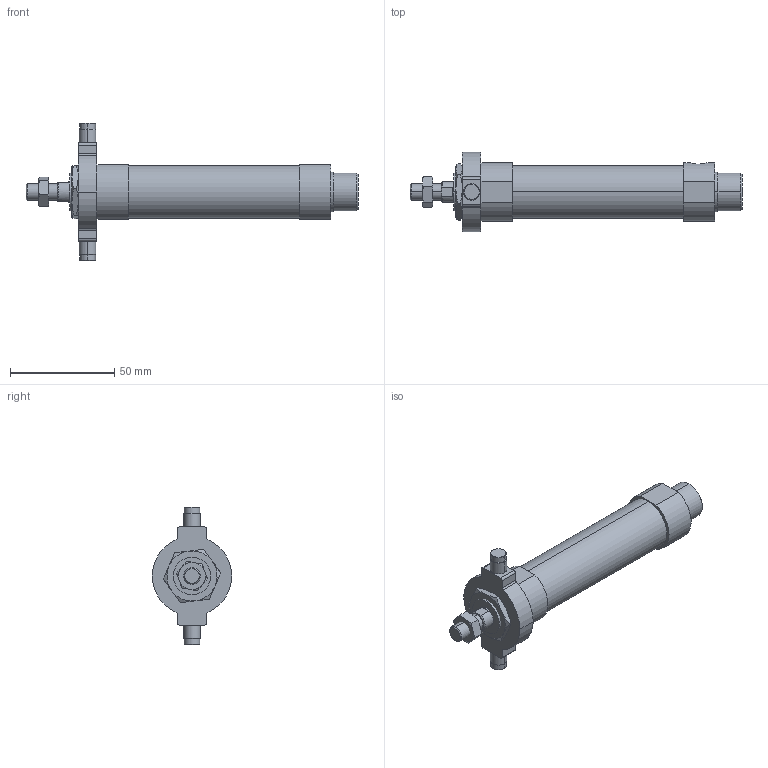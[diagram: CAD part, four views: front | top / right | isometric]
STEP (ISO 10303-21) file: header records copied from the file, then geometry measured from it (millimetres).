
FILE_DESCRIPTION (( 'STEP AP203' ), '1' );
FILE_NAME ('J#1-20-15(25)-T.STEP', '2016-03-08T06:42:28', ( '' ), ( '' ), 'SwSTEP 2.0', 'SolidWorks 2014', '' );
FILE_SCHEMA (( 'CONFIG_CONTROL_DESIGN' ));
Length unit declared in the file: millimetre
Products named in the file (5): J#2-20-T; J#1-20-15; J#1-20-15(25)-T
Assembly tree (4 placements, depth 2):
  J#1-20-15(25)-T
    J#1-20-15
    (unnamed)
    (unnamed)
    J#2-20-T
Bounding box: 159 x 38 x 66 mm (x, y, z)
Volume: 76638.5 mm3; surface area: 18564.2 mm2
Topology: 4 solids, 4 shells, 128 faces, 285 edges, 176 vertices
Faces by surface type: cylinder 45, plane 45, torus 24, cone 14
Entity records: 4356 total; most frequent: CARTESIAN_POINT 986, DIRECTION 627, ORIENTED_EDGE 570, EDGE_CURVE 285, AXIS2_PLACEMENT_3D 261, VERTEX_POINT 176, EDGE_LOOP 145, ADVANCED_FACE 128
